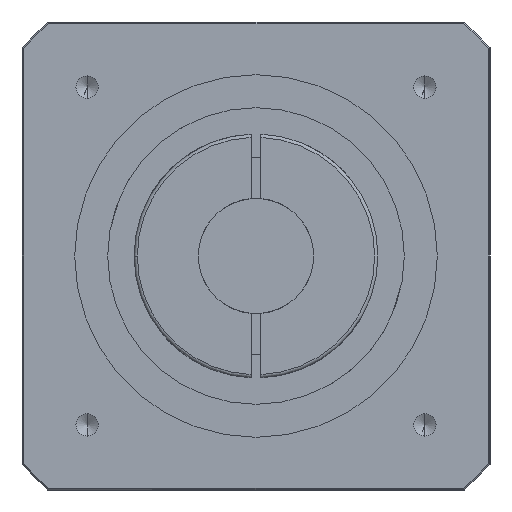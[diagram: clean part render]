
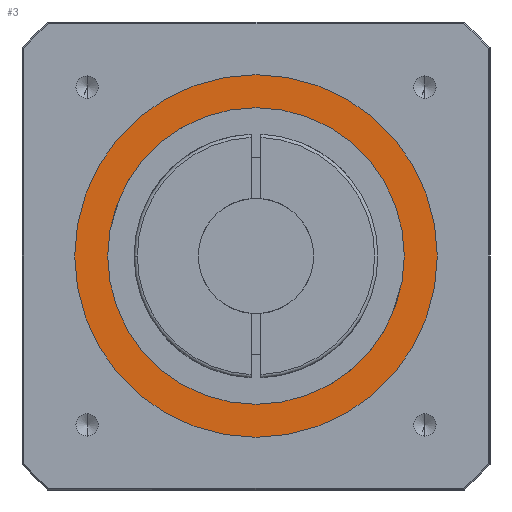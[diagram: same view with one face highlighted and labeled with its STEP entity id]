
A CAD part, front view. The second image highlights one B-rep face of the part: STEP entity #3.
In plain terms, the highlighted planar face has unit normal (0, -1, 0).
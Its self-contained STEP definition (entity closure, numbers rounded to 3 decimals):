
#3 = ADVANCED_FACE ( 'NONE', ( #4611, #4614 ), #3091, .T. ) ;
#344 = CARTESIAN_POINT ( 'NONE',  ( 0., -71.5, 0. ) ) ;
#345 = DIRECTION ( 'NONE',  ( 0., 1., 0. ) ) ;
#346 = DIRECTION ( 'NONE',  ( 0., 0., -1. ) ) ;
#353 = CARTESIAN_POINT ( 'NONE',  ( 0., -71.5, 0. ) ) ;
#354 = DIRECTION ( 'NONE',  ( 0., 1., 0. ) ) ;
#355 = DIRECTION ( 'NONE',  ( 0., 0., -1. ) ) ;
#1338 = EDGE_CURVE ( 'NONE', #4344, #4324, #4899, .T. ) ;
#1542 = AXIS2_PLACEMENT_3D ( 'NONE', #3119, #3120, #3090 ) ;
#1940 = AXIS2_PLACEMENT_3D ( 'NONE', #2747, #2748, #2749 ) ;
#2534 = EDGE_CURVE ( 'NONE', #4166, #4178, #5378, .T. ) ;
#2537 = EDGE_CURVE ( 'NONE', #4178, #4166, #5386, .T. ) ;
#2747 = CARTESIAN_POINT ( 'NONE',  ( 0., -71.5, 0. ) ) ;
#2748 = DIRECTION ( 'NONE',  ( 0., -1., 0. ) ) ;
#2749 = DIRECTION ( 'NONE',  ( 0., 0., -1. ) ) ;
#3081 = EDGE_CURVE ( 'NONE', #4324, #4344, #5595, .T. ) ;
#3090 = DIRECTION ( 'NONE',  ( 0., 0., -1. ) ) ;
#3091 = PLANE ( 'NONE',  #1542 ) ;
#3119 = CARTESIAN_POINT ( 'NONE',  ( 0., -71.5, 0. ) ) ;
#3120 = DIRECTION ( 'NONE',  ( 0., -1., 0. ) ) ;
#3504 = ORIENTED_EDGE ( 'NONE', *, *, #1338, .T. ) ;
#3505 = ORIENTED_EDGE ( 'NONE', *, *, #3081, .T. ) ;
#3506 = ORIENTED_EDGE ( 'NONE', *, *, #2534, .T. ) ;
#3507 = ORIENTED_EDGE ( 'NONE', *, *, #2537, .T. ) ;
#4166 = VERTEX_POINT ( 'NONE', #6351 ) ;
#4178 = VERTEX_POINT ( 'NONE', #6363 ) ;
#4324 = VERTEX_POINT ( 'NONE', #6509 ) ;
#4344 = VERTEX_POINT ( 'NONE', #6529 ) ;
#4477 = EDGE_LOOP ( 'NONE', ( #3506, #3507 ) ) ;
#4508 = EDGE_LOOP ( 'NONE', ( #3504, #3505 ) ) ;
#4611 = FACE_OUTER_BOUND ( 'NONE', #4508, .T. ) ;
#4614 = FACE_BOUND ( 'NONE', #4477, .T. ) ;
#4899 = CIRCLE ( 'NONE', #1940, 55. ) ;
#5378 = CIRCLE ( 'NONE', #6674, 45. ) ;
#5386 = CIRCLE ( 'NONE', #6676, 45. ) ;
#5595 = CIRCLE ( 'NONE', #6734, 55. ) ;
#6218 = CARTESIAN_POINT ( 'NONE',  ( 0., -71.5, 0. ) ) ;
#6219 = DIRECTION ( 'NONE',  ( 0., -1., 0. ) ) ;
#6220 = DIRECTION ( 'NONE',  ( 0., 0., -1. ) ) ;
#6351 = CARTESIAN_POINT ( 'NONE',  ( 0., -71.5, -45. ) ) ;
#6363 = CARTESIAN_POINT ( 'NONE',  ( 0., -71.5, 45. ) ) ;
#6509 = CARTESIAN_POINT ( 'NONE',  ( 0., -71.5, 55. ) ) ;
#6529 = CARTESIAN_POINT ( 'NONE',  ( 0., -71.5, -55. ) ) ;
#6674 = AXIS2_PLACEMENT_3D ( 'NONE', #344, #345, #346 ) ;
#6676 = AXIS2_PLACEMENT_3D ( 'NONE', #353, #354, #355 ) ;
#6734 = AXIS2_PLACEMENT_3D ( 'NONE', #6218, #6219, #6220 ) ;
